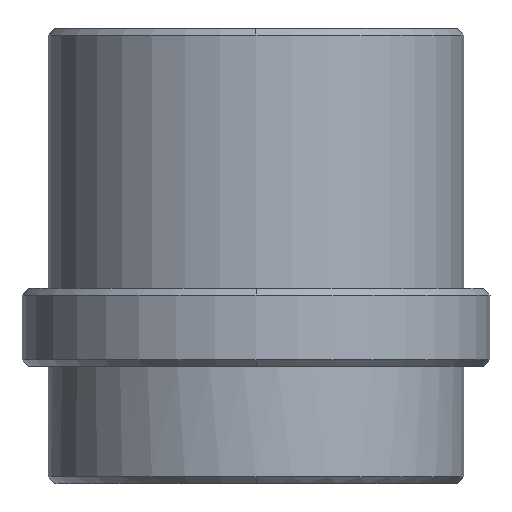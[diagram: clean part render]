
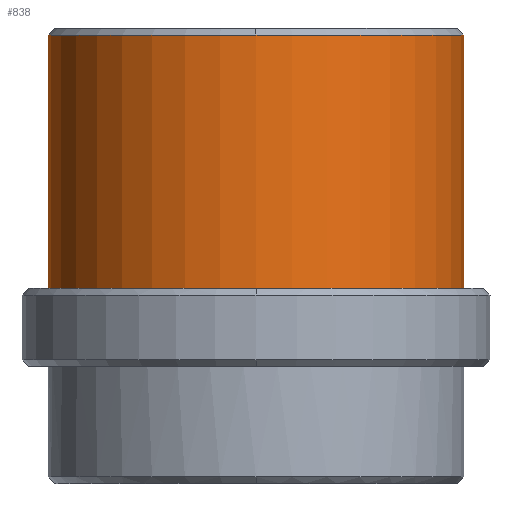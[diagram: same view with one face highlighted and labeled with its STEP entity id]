
A CAD part, front view. The second image highlights one B-rep face of the part: STEP entity #838.
In plain terms, the highlighted cylindrical face has radius 16 mm (diameter 32 mm), a partial arc.
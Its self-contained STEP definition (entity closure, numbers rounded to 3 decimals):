
#591=CARTESIAN_POINT('Vertex',(0.,-16.,25.5)) ;
#607=CARTESIAN_POINT('Vertex',(-16.,0.,25.5)) ;
#610=CARTESIAN_POINT('Axis2P3D Location',(0.,0.,25.5)) ;
#627=CARTESIAN_POINT('Axis2P3D Location',(0.,0.,25.5)) ;
#631=CARTESIAN_POINT('Vertex',(16.,0.,25.5)) ;
#807=CARTESIAN_POINT('Axis2P3D Location',(0.,0.,-10.75)) ;
#812=CARTESIAN_POINT('Line Origine',(-16.,0.,-10.75)) ;
#816=CARTESIAN_POINT('Vertex',(-16.,0.,6.)) ;
#819=CARTESIAN_POINT('Axis2P3D Location',(0.,0.,6.)) ;
#823=CARTESIAN_POINT('Vertex',(16.,0.,6.)) ;
#826=CARTESIAN_POINT('Line Origine',(16.,0.,-10.75)) ;
#611=DIRECTION('Axis2P3D Direction',(0.,0.,-1.)) ;
#628=DIRECTION('Axis2P3D Direction',(0.,0.,-1.)) ;
#808=DIRECTION('Axis2P3D Direction',(0.,0.,1.)) ;
#809=DIRECTION('Axis2P3D XDirection',(-1.,0.,0.)) ;
#813=DIRECTION('Vector Direction',(0.,0.,1.)) ;
#820=DIRECTION('Axis2P3D Direction',(0.,0.,1.)) ;
#827=DIRECTION('Vector Direction',(0.,0.,1.)) ;
#612=AXIS2_PLACEMENT_3D('Circle Axis2P3D',#610,#611,$) ;
#629=AXIS2_PLACEMENT_3D('Circle Axis2P3D',#627,#628,$) ;
#810=AXIS2_PLACEMENT_3D('Cylinder Axis2P3D',#807,#808,#809) ;
#821=AXIS2_PLACEMENT_3D('Circle Axis2P3D',#819,#820,$) ;
#832=ORIENTED_EDGE('',*,*,#818,.T.) ;
#833=ORIENTED_EDGE('',*,*,#825,.F.) ;
#834=ORIENTED_EDGE('',*,*,#830,.F.) ;
#835=ORIENTED_EDGE('',*,*,#633,.T.) ;
#836=ORIENTED_EDGE('',*,*,#614,.T.) ;
#814=VECTOR('Line Direction',#813,1.) ;
#828=VECTOR('Line Direction',#827,1.) ;
#838=ADVANCED_FACE('MANIFOLD_SOLID_BREP #2006',(#837),#811,.T.) ;
#613=CIRCLE('generated circle',#612,16.) ;
#630=CIRCLE('generated circle',#629,16.) ;
#822=CIRCLE('generated circle',#821,16.) ;
#811=CYLINDRICAL_SURFACE('generated cylinder',#810,16.) ;
#614=EDGE_CURVE('',#592,#608,#613,.T.) ;
#633=EDGE_CURVE('',#632,#592,#630,.T.) ;
#818=EDGE_CURVE('',#608,#817,#815,.F.) ;
#825=EDGE_CURVE('',#824,#817,#822,.F.) ;
#830=EDGE_CURVE('',#632,#824,#829,.F.) ;
#831=EDGE_LOOP('',(#832,#833,#834,#835,#836)) ;
#837=FACE_OUTER_BOUND('',#831,.T.) ;
#815=LINE('Line',#812,#814) ;
#829=LINE('Line',#826,#828) ;
#592=VERTEX_POINT('',#591) ;
#608=VERTEX_POINT('',#607) ;
#632=VERTEX_POINT('',#631) ;
#817=VERTEX_POINT('',#816) ;
#824=VERTEX_POINT('',#823) ;
